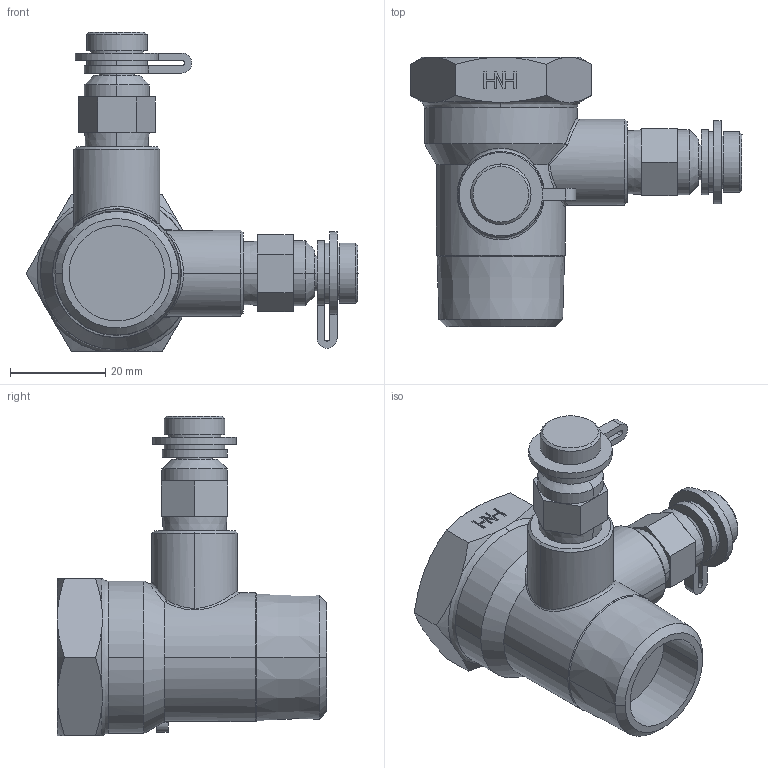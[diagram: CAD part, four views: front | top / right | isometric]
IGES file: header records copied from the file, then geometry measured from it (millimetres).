
Global section: file name: No Iges File Name specified; native system: AutoDesk Inventor R12.0; preprocessor: AutoDesk Inventor Iges Exporter R12.0; date: 20110112.143810; units: millimetre
Bounding box: 69.65 x 56.5 x 67.1 mm (x, y, z)
Volume: 45661.5 mm3; surface area: 12734.9 mm2
Topology: 1 solids, 1 shells, 164 faces, 405 edges, 260 vertices
Faces by surface type: plane 79, cone 33, cylinder 32, bspline 16, revolution 4
